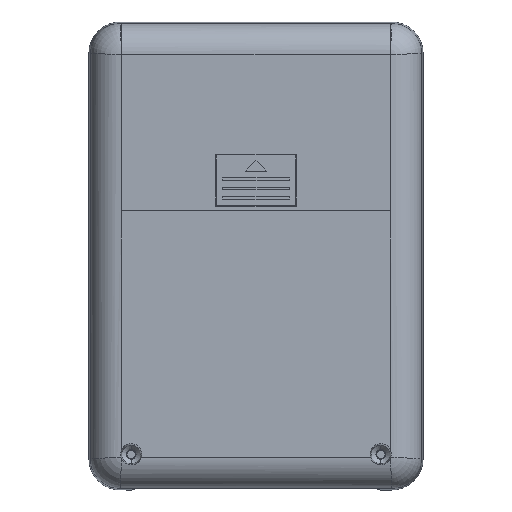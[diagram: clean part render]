
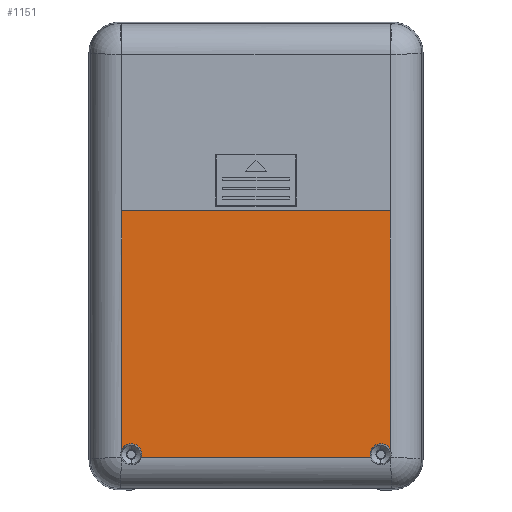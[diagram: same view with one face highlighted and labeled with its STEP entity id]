
A CAD part, front view. The second image highlights one B-rep face of the part: STEP entity #1151.
In plain terms, the highlighted planar face has unit normal (0, -1, 0).
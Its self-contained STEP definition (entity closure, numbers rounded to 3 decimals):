
#466 = DIRECTION ( 'NONE',  ( 0., -1., 0. ) ) ;
#809 = VERTEX_POINT ( 'NONE', #10868 ) ;
#881 = CIRCLE ( 'NONE', #14561, 2.39 ) ;
#1151 = ADVANCED_FACE ( 'NONE', ( #2777 ), #2677, .T. ) ;
#1325 = VECTOR ( 'NONE', #3241, 1000. ) ;
#1370 = DIRECTION ( 'NONE',  ( 1., 0., 0. ) ) ;
#1613 = CARTESIAN_POINT ( 'NONE',  ( 30.118, -14.1, 45.5 ) ) ;
#1657 = LINE ( 'NONE', #5934, #14363 ) ;
#1926 = EDGE_LOOP ( 'NONE', ( #8115, #7398, #13977, #11377, #16921, #5106, #11480, #6916 ) ) ;
#1965 = CARTESIAN_POINT ( 'NONE',  ( -28., -14.1, -44.5 ) ) ;
#2243 = CARTESIAN_POINT ( 'NONE',  ( -30.118, -14.1, -43.393 ) ) ;
#2677 = PLANE ( 'NONE',  #18804 ) ;
#2777 = FACE_OUTER_BOUND ( 'NONE', #1926, .T. ) ;
#2939 = CARTESIAN_POINT ( 'NONE',  ( -30.118, -14.1, 10.108 ) ) ;
#3139 = CARTESIAN_POINT ( 'NONE',  ( 28., -14.1, -44.5 ) ) ;
#3241 = DIRECTION ( 'NONE',  ( 0., 0., 1. ) ) ;
#3430 = VERTEX_POINT ( 'NONE', #5119 ) ;
#4115 = LINE ( 'NONE', #11993, #8267 ) ;
#4624 = EDGE_CURVE ( 'NONE', #18694, #3430, #11712, .T. ) ;
#4869 = DIRECTION ( 'NONE',  ( 0., 0., -1. ) ) ;
#5018 = LINE ( 'NONE', #12876, #6704 ) ;
#5067 = VERTEX_POINT ( 'NONE', #17374 ) ;
#5106 = ORIENTED_EDGE ( 'NONE', *, *, #16110, .F. ) ;
#5119 = CARTESIAN_POINT ( 'NONE',  ( 28., -14.1, -42.11 ) ) ;
#5125 = DIRECTION ( 'NONE',  ( 0., 0., -1. ) ) ;
#5247 = CARTESIAN_POINT ( 'NONE',  ( -28., -14.1, -44.5 ) ) ;
#5934 = CARTESIAN_POINT ( 'NONE',  ( -30.118, -14.1, 45.5 ) ) ;
#6486 = AXIS2_PLACEMENT_3D ( 'NONE', #3139, #8218, #4869 ) ;
#6704 = VECTOR ( 'NONE', #11248, 1000. ) ;
#6773 = DIRECTION ( 'NONE',  ( 0., 0., -1. ) ) ;
#6916 = ORIENTED_EDGE ( 'NONE', *, *, #13493, .F. ) ;
#7034 = AXIS2_PLACEMENT_3D ( 'NONE', #19746, #11707, #7094 ) ;
#7094 = DIRECTION ( 'NONE',  ( 0., 0., -1. ) ) ;
#7398 = ORIENTED_EDGE ( 'NONE', *, *, #14336, .T. ) ;
#7888 = CIRCLE ( 'NONE', #13429, 2.39 ) ;
#7975 = CARTESIAN_POINT ( 'NONE',  ( 30.118, -14.1, 10.108 ) ) ;
#8015 = LINE ( 'NONE', #1613, #1325 ) ;
#8057 = VERTEX_POINT ( 'NONE', #2939 ) ;
#8115 = ORIENTED_EDGE ( 'NONE', *, *, #17495, .F. ) ;
#8203 = EDGE_CURVE ( 'NONE', #18694, #10385, #8015, .T. ) ;
#8218 = DIRECTION ( 'NONE',  ( 0., -1., 0. ) ) ;
#8267 = VECTOR ( 'NONE', #1370, 1000. ) ;
#8983 = DIRECTION ( 'NONE',  ( 0., -1., 0. ) ) ;
#9783 = CARTESIAN_POINT ( 'NONE',  ( -28., -14.1, -42.11 ) ) ;
#10385 = VERTEX_POINT ( 'NONE', #7975 ) ;
#10868 = CARTESIAN_POINT ( 'NONE',  ( 25.691, -14.1, -45.118 ) ) ;
#11248 = DIRECTION ( 'NONE',  ( 1., 0., 0. ) ) ;
#11377 = ORIENTED_EDGE ( 'NONE', *, *, #4624, .F. ) ;
#11446 = EDGE_CURVE ( 'NONE', #8057, #18499, #1657, .T. ) ;
#11480 = ORIENTED_EDGE ( 'NONE', *, *, #11446, .T. ) ;
#11707 = DIRECTION ( 'NONE',  ( 0., -1., 0. ) ) ;
#11712 = CIRCLE ( 'NONE', #6486, 2.39 ) ;
#11993 = CARTESIAN_POINT ( 'NONE',  ( -30.5, -14.1, -45.118 ) ) ;
#12703 = DIRECTION ( 'NONE',  ( 0., -1., 0. ) ) ;
#12876 = CARTESIAN_POINT ( 'NONE',  ( -30.5, -14.1, 10.108 ) ) ;
#13429 = AXIS2_PLACEMENT_3D ( 'NONE', #1965, #12703, #5125 ) ;
#13493 = EDGE_CURVE ( 'NONE', #17814, #18499, #7888, .T. ) ;
#13977 = ORIENTED_EDGE ( 'NONE', *, *, #18806, .F. ) ;
#14336 = EDGE_CURVE ( 'NONE', #5067, #809, #4115, .T. ) ;
#14363 = VECTOR ( 'NONE', #18389, 1000. ) ;
#14561 = AXIS2_PLACEMENT_3D ( 'NONE', #5247, #466, #6773 ) ;
#15120 = CARTESIAN_POINT ( 'NONE',  ( -30.5, -14.1, 45.5 ) ) ;
#15193 = CARTESIAN_POINT ( 'NONE',  ( 30.118, -14.1, -43.393 ) ) ;
#15223 = DIRECTION ( 'NONE',  ( 0., 0., -1. ) ) ;
#16110 = EDGE_CURVE ( 'NONE', #8057, #10385, #5018, .T. ) ;
#16921 = ORIENTED_EDGE ( 'NONE', *, *, #8203, .T. ) ;
#17374 = CARTESIAN_POINT ( 'NONE',  ( -25.691, -14.1, -45.118 ) ) ;
#17495 = EDGE_CURVE ( 'NONE', #5067, #17814, #881, .T. ) ;
#17799 = CIRCLE ( 'NONE', #7034, 2.39 ) ;
#17814 = VERTEX_POINT ( 'NONE', #9783 ) ;
#18389 = DIRECTION ( 'NONE',  ( 0., 0., -1. ) ) ;
#18499 = VERTEX_POINT ( 'NONE', #2243 ) ;
#18694 = VERTEX_POINT ( 'NONE', #15193 ) ;
#18804 = AXIS2_PLACEMENT_3D ( 'NONE', #15120, #8983, #15223 ) ;
#18806 = EDGE_CURVE ( 'NONE', #3430, #809, #17799, .T. ) ;
#19746 = CARTESIAN_POINT ( 'NONE',  ( 28., -14.1, -44.5 ) ) ;
